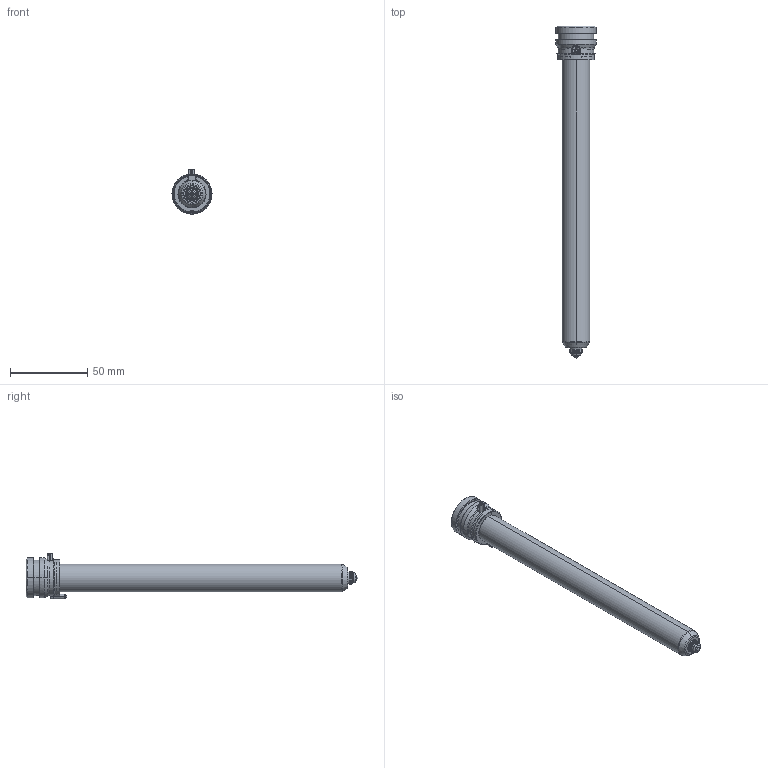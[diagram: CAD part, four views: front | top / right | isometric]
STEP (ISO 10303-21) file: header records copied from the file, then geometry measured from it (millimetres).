
FILE_DESCRIPTION((''),'2;1');
FILE_NAME('TH18197_5-A-1B15-PK-JG','2023-12-14T',('umhib'),('Thermoplay S.p.A.'),'PRO/ENGINEER BY PARAMETRIC TECHNOLOGY CORPORATION, 2017170','PRO/ENGINEER BY PARAMETRIC TECHNOLOGY CORPORATION, 2017170','');
FILE_SCHEMA(('CONFIG_CONTROL_DESIGN'));
Length unit declared in the file: millimetre
Products named in the file (1): TH18197_5-A-1B15-PK-JG
Bounding box: 26 x 215.5 x 29.5 mm (x, y, z)
Volume: 42158.6 mm3; surface area: 30661.8 mm2
Topology: 1 solids, 2 shells, 398 faces, 1036 edges, 643 vertices
Faces by surface type: cylinder 151, plane 85, cone 68, torus 56, bspline 24, sphere 12, extrusion 2
Entity records: 18118 total; most frequent: CARTESIAN_POINT 6162, ORIENTED_EDGE 2048, DIRECTION 2025, EDGE_CURVE 1026, AXIS2_PLACEMENT_3D 812, VERTEX_POINT 643, CIRCLE 439, EDGE_LOOP 418
